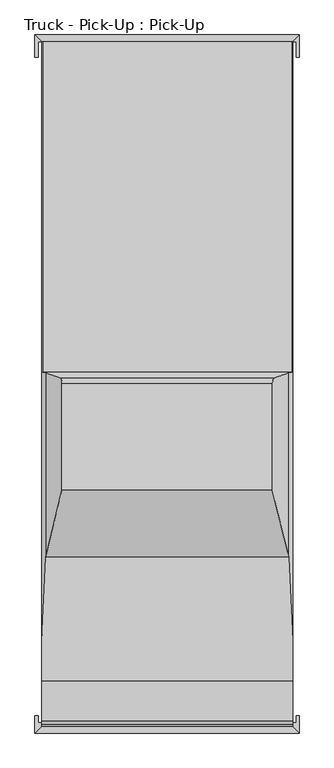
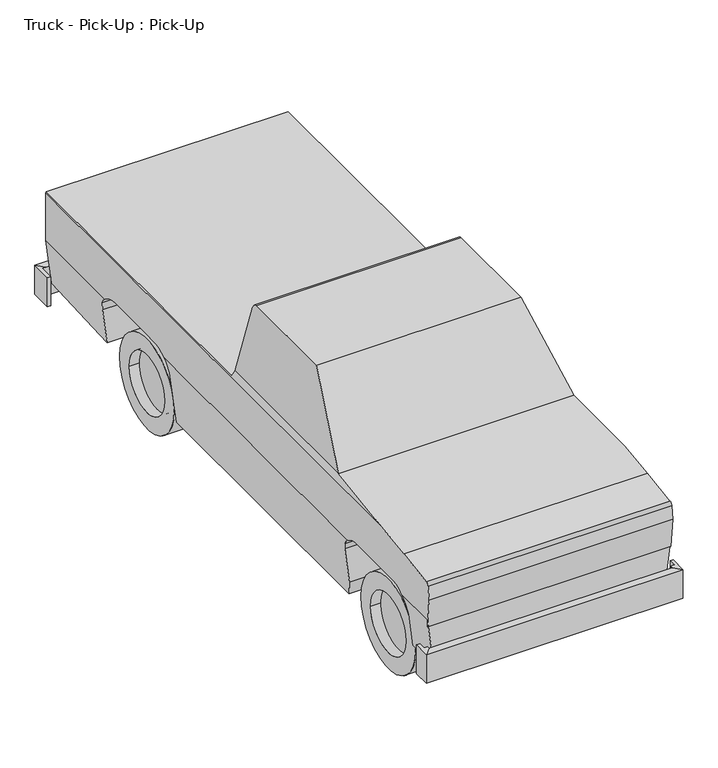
"""IFC4 building model written with IfcOpenShell, lengths in millimetres: geographic element geometry, Truck - Pick-Up : Pick-Up."""

from ifc_helpers import new_model, si_unit, point, frame, frame_2d, origin, place, context, project, spatial, polyline, circle_curve, ellipse_curve, trimmed, segment, composite_curve, outline, extrude, faceted_brep, source, transform, mapped, element, save
from ifc_brep_helpers import plane_surface, cylinder_surface, revolved_surface, advanced_brep


def truck_pick_up_pick_up_b584493c(model_context):
    return source(origin(), model_context, "Body", "SolidModel", [
        faceted_brep([(-932.9615385, 2903.0203063, 623.3577003), (-932.9615385, 2903.0203063, 394.7577003), (-907.5615385, 2903.0203063, 394.7577003), (-907.5615385, 2903.0203063, 623.3577003), (-932.9615385, 3066.5615385, 394.7577003), (-882.1615385, 3015.7615385, 394.7577003), (-907.5615385, 3015.7615385, 394.7577003), (-882.1615385, 3015.7615385, 623.3577003), (-932.9615385, 3066.5615385, 623.3577003), (-907.5615385, 3015.7615385, 623.3577003), (943.1251801, 3015.7615385, 394.7577003), (993.9251801, 3066.5615385, 394.7577003), (972.0384615, 3015.7615385, 394.7577003), (972.0384615, 3015.7615385, 623.3577003), (943.1251801, 3015.7615385, 623.3577003), (993.9251801, 3066.5615385, 623.3577003), (993.9251801, 2903.0203063, 394.7577003), (993.9251801, 2903.0203063, 623.3577003), (972.0384615, 2903.0203063, 623.3577003), (972.0384615, 2903.0203063, 394.7577003)], [[[0, 1, 2, 3]], [[1, 4, 5, 6, 2]], [[7, 8, 0, 3, 9]], [[1, 0, 8, 4]], [[10, 5, 4, 11]], [[10, 12, 13, 14, 7, 9, 6, 5]], [[8, 7, 14, 15]], [[4, 8, 15, 11]], [[16, 17, 18, 19]], [[10, 11, 16, 19, 12]], [[15, 14, 13, 18, 17]], [[11, 15, 17, 16]], [[6, 9, 3, 2]], [[13, 12, 19, 18]]]),
        faceted_brep([(-932.9615385, -1899.6194827, 394.7577003), (-932.9615385, -1899.6194827, 623.3577003), (-907.5615385, -1899.6194827, 623.3577003), (-907.5615385, -1899.6194827, 394.7577003), (-932.9615385, -2026.6194827, 394.7577003), (-932.9615385, -2026.6194827, 623.3577003), (-882.1615385, -1975.8194827, 623.3577003), (-882.1615385, -1951.924276, 623.3577003), (-907.5615385, -1951.924276, 623.3577003), (-882.1615385, -1975.8194827, 394.7577003), (-882.1615385, -1951.924276, 394.7577003), (-907.5615385, -1951.924276, 394.7577003), (993.9251801, -2026.6194827, 394.7577003), (993.9251801, -2026.6194827, 623.3577003), (943.1251801, -1975.8194827, 623.3577003), (943.1251801, -1975.8194827, 394.7577003), (993.9251801, -1899.6194827, 623.3577003), (993.9251801, -1899.6194827, 394.7577003), (972.0384615, -1899.6194827, 394.7577003), (972.0384615, -1899.6194827, 623.3577003), (972.0384615, -1951.924276, 623.3577003), (943.1251801, -1951.924276, 623.3577003), (943.1251801, -1951.924276, 394.7577003), (972.0384615, -1951.924276, 394.7577003)], [[[0, 1, 2, 3]], [[1, 0, 4, 5]], [[1, 5, 6, 7, 8, 2]], [[6, 9, 10, 7]], [[4, 0, 3, 11, 10, 9]], [[5, 4, 12, 13]], [[6, 5, 13, 14]], [[9, 6, 14, 15]], [[4, 9, 15, 12]], [[16, 17, 18, 19]], [[13, 12, 17, 16]], [[14, 13, 16, 19, 20, 21]], [[15, 14, 21, 22]], [[12, 15, 22, 23, 18, 17]], [[11, 8, 7, 10]], [[20, 23, 22, 21]], [[8, 11, 3, 2]], [[23, 20, 19, 18]]]),
        advanced_brep(
        [(-882.1615385, 2103.6156034, 888.7336798), (-882.1615385, 1697.2156034, 888.7336798), (-882.1615385, 1614.7015006, 885.1455636), (-882.1615385, 1473.5121228, 837.1131584), (-882.1615385, -912.9817492, 837.1131584), (-882.1615385, -1053.9517054, 878.8872426), (-882.1615385, -1474.8105853, 878.8872426), (-882.1615385, -1617.7834877, 837.1131584), (-882.1615385, -1951.924276, 837.1131584), (-882.1615385, -1951.924276, 779.2411665), (-882.1615385, -1975.8194827, 1006.5888718), (-882.1615385, -1963.4375574, 1107.4315608), (-882.1615385, -1939.9042038, 1130.9649145), (-882.1615385, -1644.5045632, 1173.526104), (-882.1615385, -1353.2454526, 1210.3079682), (-882.1615385, 3015.7615385, 1210.3079682), (-882.1615385, 3015.7615385, 837.1131584), (-882.1615385, 2243.9728923, 837.1131584), (946.6384615, -1644.5045632, 1173.526104), (946.6384615, -1939.9042038, 1130.9649145), (946.6384615, -1963.4375574, 1107.4315608), (946.6384615, -1975.8194827, 1006.5888718), (946.6384615, -1951.924276, 779.2411665), (946.6384615, -1951.924276, 837.1131584), (946.6384615, -1617.7834877, 837.1131584), (946.6384615, -1474.8105853, 878.8872426), (946.6384615, -1053.9517054, 878.8872426), (946.6384615, -912.9817492, 837.1131584), (946.6384615, 1473.5121228, 837.1131584), (946.6384615, 1614.7015006, 885.1455636), (946.6384615, 1697.2156034, 888.7336798), (946.6384615, 2103.6156034, 888.7336798), (946.6384615, 2243.9728923, 837.1131584), (946.6384615, 3015.7615385, 837.1131584), (946.6384615, 3015.7615385, 1210.3079682), (946.6384615, -1353.2454526, 1210.3079682), (-876.2843723, 3015.7615385, 1219.2), (940.7612953, 3015.7615385, 1219.2), (902.1686195, 3015.7615385, 480.544728), (-837.6916964, 3015.7615385, 480.544728), (897.0369558, 2300.369269, 439.3979826), (-832.5600327, 2300.369269, 439.3979826), (930.9047354, 2300.369269, 710.9568741), (-866.4278123, 2300.369269, 710.9568741), (939.4838124, 2288.2399438, 779.7456957), (-875.0068893, 2288.2399438, 779.7456957), (944.2646239, 1453.4521306, 818.079235), (-879.7877008, 1453.4521306, 818.079235), (935.7642918, 1419.378607, 749.921807), (-871.2873687, 1419.378607, 749.921807), (884.1769157, 1419.378607, 336.2835102), (-819.6999926, 1419.378607, 336.2835102), (884.1769157, -823.559725, 336.2835102), (-819.6999926, -823.559725, 336.2835102), (898.6478484, -854.6501227, 452.314454), (-834.1709253, -854.6501227, 452.314454), (933.4935408, -854.6501227, 731.714454), (-869.0166178, -854.6501227, 731.714454), (939.6132416, -867.7981302, 780.783486), (-875.1363185, -867.7981302, 780.783486), (930.9350571, -1682.962287, 711.2), (-866.458134, -1682.962287, 711.2), (899.0315641, -1682.962287, 455.3911665), (-834.554641, -1682.962287, 455.3911665), (899.0315641, -1951.924276, 455.3911665), (-834.554641, -1951.924276, 455.3911665), (939.4208895, -1951.924276, 779.2411665), (-874.9439664, -1951.924276, 779.2411665), (917.6799973, -743.8423581, 1254.1215299), (-853.2030742, -743.8423581, 1254.1215299), (800.2028589, -255.2503888, 1778.0), (-735.7259358, -255.2503888, 1778.0), (800.2028589, 522.1190782, 1778.0), (-735.7259358, 522.1190782, 1778.0), (-743.5250355, 560.0740962, 1743.2206338), (808.0019586, 560.0740962, 1743.2206338), (917.6799973, 602.8647232, 1254.1215299), (940.7612953, 605.9199612, 1219.2), (-876.2843723, 605.9199612, 1219.2), (-853.2030742, 602.8647232, 1254.1215299)],
        [
            (0, 1),
            (1, 2),
            (2, 3, circle_curve(frame((-882.1615385, 1606.9552598, 676.3888042), z_axis=(1.0, 0.0, 0.0), x_axis=(0.0, -1.0, 0.0)), 208.900428)),
            (3, 4),
            (4, 5, circle_curve(frame((-882.1615385, -1031.5575926, 695.7137663), z_axis=(1.0, 0.0, 0.0), x_axis=(0.0, -1.0, 0.0)), 184.5373098)),
            (5, 6),
            (6, 7, circle_curve(frame((-882.1615385, -1498.8876828, 695.7404401), z_axis=(1.0, 0.0, 0.0), x_axis=(0.0, -1.0, 0.0)), 184.7226513)),
            (7, 8),
            (8, 9),
            (9, 10),
            (10, 11),
            (11, 12, circle_curve(frame((-882.1615385, -1939.9042038, 1107.4315608), z_axis=(-1.0, 0.0, 0.0), x_axis=(0.0, -1.0, 0.0)), 23.5333537)),
            (12, 13),
            (13, 14, circle_curve(frame((-882.1615385, -446.5414344, -7141.0412638), z_axis=(-1.0, 0.0, 0.0), x_axis=(0.0, -1.0, 0.0)), 8400.4253566)),
            (14, 15),
            (15, 16),
            (16, 17),
            (17, 0, circle_curve(frame((-882.1615385, 2109.2327636, 687.3793785), z_axis=(1.0, 0.0, 0.0), x_axis=(0.0, -1.0, 0.0)), 201.4326367)),
            (18, 19),
            (19, 20, circle_curve(frame((946.6384615, -1939.9042038, 1107.4315608), z_axis=(1.0, 0.0, 0.0), x_axis=(0.0, -1.0, 0.0)), 23.5333537)),
            (20, 21),
            (21, 22),
            (22, 23),
            (23, 24),
            (24, 25, circle_curve(frame((946.6384615, -1498.8876828, 695.7404401), z_axis=(-1.0, 0.0, 0.0), x_axis=(0.0, -1.0, 0.0)), 184.7226513)),
            (25, 26),
            (26, 27, circle_curve(frame((946.6384615, -1031.5575926, 695.7137663), z_axis=(-1.0, 0.0, 0.0), x_axis=(0.0, -1.0, 0.0)), 184.5373098)),
            (27, 28),
            (28, 29, circle_curve(frame((946.6384615, 1606.9552598, 676.3888042), z_axis=(-1.0, 0.0, 0.0), x_axis=(0.0, -1.0, 0.0)), 208.900428)),
            (29, 30),
            (30, 31),
            (31, 32, circle_curve(frame((946.6384615, 2109.2327636, 687.3793785), z_axis=(-1.0, 0.0, 0.0), x_axis=(0.0, -1.0, 0.0)), 201.4326367)),
            (32, 33),
            (33, 34),
            (34, 35),
            (35, 18, circle_curve(frame((946.6384615, -446.5414344, -7141.0412638), z_axis=(1.0, 0.0, 0.0), x_axis=(0.0, -1.0, 0.0)), 8400.4253566)),
            (15, 36),
            (36, 37),
            (37, 34),
            (33, 38),
            (38, 39),
            (39, 16),
            (38, 40),
            (40, 41),
            (41, 39),
            (40, 42),
            (42, 43),
            (43, 41),
            (42, 44),
            (44, 45),
            (45, 43),
            (31, 0),
            (17, 45, ellipse_curve(frame((-863.4873178, 2109.2327636, 687.3793785), z_axis=(-0.9923125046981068, 0.0, -0.12375739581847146), x_axis=(0.12375739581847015, 0.0, -0.9923125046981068)), 202.9931455, 201.4326367)),
            (44, 32, ellipse_curve(frame((927.9642409, 2109.2327636, 687.3793785), z_axis=(0.992312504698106, 0.0, -0.12375739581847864), x_axis=(0.12375739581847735, 0.0, 0.9923125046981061)), 202.9931455, 201.4326367)),
            (30, 1),
            (29, 2),
            (28, 46, ellipse_curve(frame((926.5935388, 1606.9552598, 676.3888042), z_axis=(0.992312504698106, 0.0, -0.12375739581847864), x_axis=(0.12375739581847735, 0.0, 0.9923125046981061)), 210.5187902, 208.900428)),
            (46, 47),
            (47, 3, ellipse_curve(frame((-862.1166157, 1606.9552598, 676.3888042), z_axis=(-0.9923125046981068, 0.0, -0.12375739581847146), x_axis=(0.12375739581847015, 0.0, -0.9923125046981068)), 210.5187902, 208.900428)),
            (46, 48),
            (48, 49),
            (49, 47),
            (48, 50),
            (50, 51),
            (51, 49),
            (50, 52),
            (52, 53),
            (53, 51),
            (52, 54),
            (54, 55),
            (55, 53),
            (54, 56),
            (56, 57),
            (57, 55),
            (56, 58),
            (58, 59),
            (59, 57),
            (26, 5),
            (4, 59, ellipse_curve(frame((-864.5267506, -1031.5575926, 695.7137663), z_axis=(-0.9923125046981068, 0.0, -0.12375739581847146), x_axis=(0.12375739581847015, 0.0, -0.9923125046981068)), 185.9669297, 184.5373098)),
            (58, 27, ellipse_curve(frame((929.0036737, -1031.5575926, 695.7137663), z_axis=(0.992312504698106, 0.0, -0.12375739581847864), x_axis=(0.12375739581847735, 0.0, 0.9923125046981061)), 185.9669297, 184.5373098)),
            (25, 6),
            (24, 60, ellipse_curve(frame((929.0070003, -1498.8876828, 695.7404401), z_axis=(0.992312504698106, 0.0, -0.12375739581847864), x_axis=(0.12375739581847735, 0.0, 0.9923125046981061)), 186.153707, 184.7226513)),
            (60, 61),
            (61, 7, ellipse_curve(frame((-864.5300772, -1498.8876828, 695.7404401), z_axis=(-0.9923125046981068, 0.0, -0.12375739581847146), x_axis=(0.12375739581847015, 0.0, -0.9923125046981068)), 186.153707, 184.7226513)),
            (60, 62),
            (62, 63),
            (63, 61),
            (62, 64),
            (64, 65),
            (65, 63),
            (64, 66),
            (66, 67),
            (67, 65),
            (9, 67),
            (66, 22),
            (21, 10),
            (20, 11),
            (19, 12),
            (18, 13),
            (35, 68, ellipse_curve(frame((6466.4418903, -446.5414344, -7141.0412638), z_axis=(-0.8342458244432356, 0.0, -0.5513926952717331), x_axis=(-0.5513926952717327, 0.0, 0.8342458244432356)), 10069.4844499, 8400.4253566)),
            (68, 69),
            (69, 14, ellipse_curve(frame((-6401.9649673, -446.5414344, -7141.0412638), z_axis=(0.8342458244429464, 0.0, -0.5513926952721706), x_axis=(-0.5513926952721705, 0.0, -0.8342458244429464)), 10069.4844499, 8400.4253566)),
            (68, 70),
            (70, 71),
            (71, 69),
            (70, 72),
            (72, 73),
            (73, 71),
            (74, 75),
            (75, 76),
            (76, 77),
            (77, 78),
            (78, 79),
            (79, 74),
            (36, 78),
            (77, 37),
            (8, 67),
            (66, 23),
            (69, 79),
            (73, 74, ellipse_curve(frame((-744.2696711, 522.1190782, 1739.9), z_axis=(-0.9757672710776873, 0.0, 0.21881095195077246), x_axis=(-0.21881095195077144, 0.0, -0.9757672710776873)), 39.0461959, 38.1)),
            (68, 76),
            (75, 72, ellipse_curve(frame((808.7465942, 522.1190782, 1739.9), z_axis=(0.9757672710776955, 0.0, 0.21881095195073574), x_axis=(-0.21881095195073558, 0.0, 0.9757672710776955)), 39.0461959, 38.1)),
        ],
        [
            plane_surface(frame((-882.1615385, 3015.7615385, 480.544728), z_axis=(-1.0, 0.0, 0.0), x_axis=(0.0, 0.0, -1.0))),
            plane_surface(frame((946.6384615, 3015.7615385, 480.544728), z_axis=(1.0, 0.0, 0.0), x_axis=(0.0, 0.0, 1.0))),
            plane_surface(frame((-882.1615385, 3015.7615385, 1219.2), z_axis=(0.0, 1.0, 0.0), x_axis=(1.0, 0.0, 0.0))),
            plane_surface(frame((-882.1615385, 3015.7615385, 480.544728), z_axis=(0.0, 0.05742144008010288, -0.9983500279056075), x_axis=(1.0, 0.0, 0.0))),
            plane_surface(frame((-882.1615385, 2300.369269, 439.3979826), z_axis=(0.0, -1.0, 0.0), x_axis=(1.0, 0.0, 0.0))),
            plane_surface(frame((-882.1615385, 2300.369269, 710.9568741), z_axis=(0.0, -0.9848077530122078, -0.17364817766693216), x_axis=(1.0, 0.0, 0.0))),
            revolved_surface(polyline([(953.0861439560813, 1907.8001269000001, 687.3793785), (-888.6092208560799, 1907.8001269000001, 687.3793785)]), (946.6384615, 2109.2327636, 687.3793785), (1.0, 0.0, 0.0)),
            plane_surface(frame((-882.1615385, 2103.6156034, 888.7336798), z_axis=(0.0, 0.0, -1.0), x_axis=(1.0, 0.0, 0.0))),
            plane_surface(frame((-882.1615385, 1697.2156034, 888.7336798), z_axis=(0.0, 0.04344382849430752, -0.9990558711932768), x_axis=(1.0, 0.0, 0.0))),
            revolved_surface(polyline([(952.6467960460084, 1398.0548318, 676.3888042), (-888.169872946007, 1398.0548318, 676.3888042)]), (946.6384615, 1606.9552598, 676.3888042), (1.0, 0.0, 0.0)),
            plane_surface(frame((-882.1615385, 1453.4521306, 818.079235), z_axis=(0.0, 0.8944544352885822, -0.44715910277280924), x_axis=(1.0, 0.0, 0.0))),
            plane_surface(frame((-882.1615385, 1419.378607, 749.921807), z_axis=(0.0, 1.0, 0.0), x_axis=(1.0, 0.0, 0.0))),
            plane_surface(frame((-882.1615385, 1419.378607, 336.2835102), z_axis=(0.0, 0.0, -1.0), x_axis=(1.0, 0.0, 0.0))),
            plane_surface(frame((-882.1615385, -823.559725, 336.2835102), z_axis=(0.0, -0.965925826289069, -0.2588190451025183), x_axis=(1.0, 0.0, 0.0))),
            plane_surface(frame((-882.1615385, -854.6501227, 452.314454), z_axis=(0.0, -1.0, 0.0), x_axis=(1.0, 0.0, 0.0))),
            plane_surface(frame((-882.1615385, -854.6501227, 731.714454), z_axis=(0.0, -0.9659258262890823, -0.25881904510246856), x_axis=(1.0, 0.0, 0.0))),
            revolved_surface(polyline([(952.0184566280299, -1216.0949024, 695.7137663), (-887.5415335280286, -1216.0949024, 695.7137663)]), (946.6384615, -1031.5575926, 695.7137663), (1.0, 0.0, 0.0)),
            plane_surface(frame((-882.1615385, -1053.9517054, 878.8872426), z_axis=(0.0, 0.0, -1.0), x_axis=(1.0, 0.0, 0.0))),
            revolved_surface(polyline([(952.0448983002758, -1683.6103341, 695.7404401), (-887.5679752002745, -1683.6103341, 695.7404401)]), (946.6384615, -1498.8876828, 695.7404401), (1.0, 0.0, 0.0)),
            plane_surface(frame((-882.1615385, -1682.962287, 711.2), z_axis=(0.0, 1.0, 0.0), x_axis=(1.0, 0.0, 0.0))),
            plane_surface(frame((-882.1615385, -1682.962287, 455.3911665), z_axis=(0.0, 0.0, -1.0), x_axis=(1.0, 0.0, 0.0))),
            plane_surface(frame((-882.1615385, -1951.924276, 455.3911665), z_axis=(0.0, -1.0, 0.0), x_axis=(1.0, 0.0, 0.0))),
            plane_surface(frame((-882.1615385, -1951.924276, 779.2411665), z_axis=(0.0, -0.9945218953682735, -0.10452846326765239), x_axis=(1.0, 0.0, 0.0))),
            plane_surface(frame((-882.1615385, -1975.8194827, 1006.5888718), z_axis=(0.0, -0.9925461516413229, 0.1218693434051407), x_axis=(1.0, 0.0, 0.0))),
            cylinder_surface(frame((946.6384615, -1939.9042038, 1107.4315608), z_axis=(-1.0, 0.0, 0.0), x_axis=(0.0, -1.0, 0.0)), 23.5333537),
            plane_surface(frame((-882.1615385, -1939.9042038, 1130.9649145), z_axis=(0.0, -0.1426074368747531, 0.9897793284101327), x_axis=(1.0, 0.0, 0.0))),
            cylinder_surface(frame((946.6384615, -446.5414344, -7141.0412638), z_axis=(-1.0, 0.0, 0.0), x_axis=(0.0, -1.0, 0.0)), 8400.4253566),
            plane_surface(frame((-882.1615385, -743.8423581, 1254.1215299), z_axis=(0.0, -0.7313067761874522, 0.6820486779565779), x_axis=(1.0, 0.0, 0.0))),
            plane_surface(frame((-882.1615385, -255.2503888, 1778.0), z_axis=(0.0, 0.0, 1.0), x_axis=(1.0, 0.0, 0.0))),
            plane_surface(frame((-882.1615385, 560.0740962, 1743.2206338), z_axis=(0.0, 0.9961946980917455, 0.08715574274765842), x_axis=(1.0, 0.0, 0.0))),
            plane_surface(frame((-882.1615385, 605.9199612, 1219.2), z_axis=(0.0, 0.0, 1.0), x_axis=(1.0, 0.0, 0.0))),
            plane_surface(frame((-730.4934031, -1951.924276, 305.3311322), z_axis=(0.0, 1.0, 0.0), x_axis=(1.0, 0.0, 0.0))),
            plane_surface(frame((-815.8397312, -1951.924276, 305.3311322), z_axis=(-0.9923125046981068, 0.0, -0.12375739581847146), x_axis=(0.0, 1.0, 0.0))),
            plane_surface(frame((-884.2900076, -1951.924276, 1207.0876381), z_axis=(-0.8342458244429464, 0.0, 0.5513926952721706), x_axis=(0.0, 1.0, 0.0))),
            plane_surface(frame((-853.2030742, -1951.924276, 1254.1215299), z_axis=(-0.9757672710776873, 0.0, 0.21881095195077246), x_axis=(0.0, 1.0, 0.0))),
            plane_surface(frame((800.2028589, -1951.924276, 1778.0), z_axis=(0.9757672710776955, 0.0, 0.21881095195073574), x_axis=(0.0, 1.0, 0.0))),
            plane_surface(frame((917.6799973, -1951.924276, 1254.1215299), z_axis=(0.8342458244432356, 0.0, 0.5513926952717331), x_axis=(0.0, 1.0, 0.0))),
            plane_surface(frame((948.7669307, -1951.924276, 854.1796662), z_axis=(0.992312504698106, 0.0, -0.12375739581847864), x_axis=(0.0, 1.0, 0.0))),
            cylinder_surface(frame((946.6384615, 522.1190782, 1739.9), z_axis=(-1.0, 0.0, 0.0), x_axis=(0.0, -1.0, 0.0)), 38.1),
        ],
        [
            (0, [[1, 2, 3, 4, 5, 6, 7, 8, 9, 10, 11, 12, 13, 14, 15, 16, 17, 18]]),
            (1, [[19, 20, 21, 22, 23, 24, 25, 26, 27, 28, 29, 30, 31, 32, 33, 34, 35, 36]]),
            (2, [[-16, 37, 38, 39, -34, 40, 41, 42]]),
            (3, [[-41, 43, 44, 45]]),
            (4, [[-44, 46, 47, 48]]),
            (5, [[-47, 49, 50, 51]]),
            (6, [[52, -18, 53, -50, 54, -32]]),
            (7, [[-1, -52, -31, 55]]),
            (8, [[-2, -55, -30, 56]]),
            (9, [[-56, -29, 57, 58, 59, -3]]),
            (10, [[-58, 60, 61, 62]]),
            (11, [[-61, 63, 64, 65]]),
            (12, [[-64, 66, 67, 68]]),
            (13, [[-67, 69, 70, 71]]),
            (14, [[-70, 72, 73, 74]]),
            (15, [[-73, 75, 76, 77]]),
            (16, [[78, -5, 79, -76, 80, -27]]),
            (17, [[-6, -78, -26, 81]]),
            (18, [[-81, -25, 82, 83, 84, -7]]),
            (19, [[-83, 85, 86, 87]]),
            (20, [[-86, 88, 89, 90]]),
            (21, [[-89, 91, 92, 93]]),
            (22, [[-10, 94, -92, 95, -22, 96]]),
            (23, [[-11, -96, -21, 97]]),
            (24, [[-12, -97, -20, 98]]),
            (25, [[-13, -98, -19, 99]]),
            (26, [[-99, -36, 100, 101, 102, -14]]),
            (27, [[-101, 103, 104, 105]]),
            (28, [[-104, 106, 107, 108]]),
            (29, [[109, 110, 111, 112, 113, 114]]),
            (30, [[-38, 115, -112, 116]]),
            (31, [[117, -94, -9]]),
            (31, [[118, -23, -95]]),
            (32, [[-4, -59, -62, -65, -68, -71, -74, -77, -79]]),
            (32, [[-17, -42, -45, -48, -51, -53]]),
            (32, [[-117, -8, -84, -87, -90, -93]]),
            (33, [[119, -113, -115, -37, -15, -102]]),
            (34, [[-119, -105, -108, 120, -114]]),
            (35, [[121, -110, 122, -106, -103]]),
            (36, [[-121, -100, -35, -39, -116, -111]]),
            (37, [[-28, -80, -75, -72, -69, -66, -63, -60, -57]]),
            (37, [[-33, -54, -49, -46, -43, -40]]),
            (37, [[-118, -91, -88, -85, -82, -24]]),
            (38, [[-107, -122, -109, -120]]),
        ],
    ),
        extrude(outline(composite_curve([segment(trimmed(circle_curve(frame_2d((1872.7733891, 355.6)), 228.6), [point((1644.1733891, 355.6))], [point((2101.3733891, 355.6))], False, "CARTESIAN"), True, "CONTINUOUS"), segment(trimmed(circle_curve(frame_2d((1872.7733891, 355.6)), 228.6), [point((2101.3733891, 355.6))], [point((1644.1733891, 355.6))], False, "CARTESIAN"), True, "CONTINUOUS")], self_intersect=False)), frame((641.7586115, 0.0, 0.0), z_axis=(1.0, 0.0, 0.0), x_axis=(0.0, 1.0, 0.0)), (0.0, 0.0, 1.0), 127.8117146),
        extrude(outline(composite_curve([segment(trimmed(circle_curve(frame_2d((-1267.5375629, 355.6)), 228.6), [point((-1496.1375629, 355.6))], [point((-1038.9375629, 355.6))], False, "CARTESIAN"), True, "CONTINUOUS"), segment(trimmed(circle_curve(frame_2d((-1267.5375629, 355.6)), 228.6), [point((-1038.9375629, 355.6))], [point((-1496.1375629, 355.6))], False, "CARTESIAN"), True, "CONTINUOUS")], self_intersect=False)), frame((641.7586115, 0.0, 0.0), z_axis=(1.0, 0.0, 0.0), x_axis=(0.0, 1.0, 0.0)), (0.0, 0.0, 1.0), 127.8117146),
        extrude(outline(composite_curve([segment(trimmed(circle_curve(frame_2d((1872.7733891, 355.6)), 355.6), [point((1517.1733891, 355.6))], [point((2228.3733891, 355.6))], False, "CARTESIAN"), True, "CONTINUOUS"), segment(trimmed(circle_curve(frame_2d((1872.7733891, 355.6)), 355.6), [point((2228.3733891, 355.6))], [point((1517.1733891, 355.6))], False, "CARTESIAN"), True, "CONTINUOUS")], self_intersect=False), holes=[composite_curve([segment(trimmed(circle_curve(frame_2d((1872.7733891, 355.6)), 228.6), [point((2101.3733891, 355.6))], [point((1644.1733891, 355.6))], True, "CARTESIAN"), True, "CONTINUOUS"), segment(trimmed(circle_curve(frame_2d((1872.7733891, 355.6)), 228.6), [point((1644.1733891, 355.6))], [point((2101.3733891, 355.6))], True, "CARTESIAN"), True, "CONTINUOUS")], self_intersect=False)]), frame((641.8384615, 0.0, 0.0), z_axis=(1.0, 0.0, 0.0), x_axis=(0.0, 1.0, 0.0)), (0.0, 0.0, 1.0), 203.2),
        extrude(outline(composite_curve([segment(trimmed(circle_curve(frame_2d((-1267.5375629, 355.6)), 355.6), [point((-911.9375629, 355.6))], [point((-1623.1375629, 355.6))], False, "CARTESIAN"), True, "CONTINUOUS"), segment(trimmed(circle_curve(frame_2d((-1267.5375629, 355.6)), 355.6), [point((-1623.1375629, 355.6))], [point((-911.9375629, 355.6))], False, "CARTESIAN"), True, "CONTINUOUS")], self_intersect=False), holes=[composite_curve([segment(trimmed(circle_curve(frame_2d((-1267.5375629, 355.6)), 228.6), [point((-1038.9375629, 355.6))], [point((-1496.1375629, 355.6))], True, "CARTESIAN"), True, "CONTINUOUS"), segment(trimmed(circle_curve(frame_2d((-1267.5375629, 355.6)), 228.6), [point((-1496.1375629, 355.6))], [point((-1038.9375629, 355.6))], True, "CARTESIAN"), True, "CONTINUOUS")], self_intersect=False)]), frame((641.8384615, 0.0, 0.0), z_axis=(1.0, 0.0, 0.0), x_axis=(0.0, 1.0, 0.0)), (0.0, 0.0, 1.0), 203.2),
        extrude(outline(composite_curve([segment(trimmed(circle_curve(frame_2d((1872.7733891, 355.6)), 228.6), [point((1644.1733891, 355.6))], [point((2101.3733891, 355.6))], False, "CARTESIAN"), True, "CONTINUOUS"), segment(trimmed(circle_curve(frame_2d((1872.7733891, 355.6)), 228.6), [point((2101.3733891, 355.6))], [point((1644.1733891, 355.6))], False, "CARTESIAN"), True, "CONTINUOUS")], self_intersect=False)), frame((-705.0934031, 0.0, 0.0), z_axis=(1.0, 0.0, 0.0), x_axis=(0.0, 1.0, 0.0)), (0.0, 0.0, 1.0), 127.8117146),
        extrude(outline(composite_curve([segment(trimmed(circle_curve(frame_2d((-1267.5375629, 355.6)), 228.6), [point((-1496.1375629, 355.6))], [point((-1038.9375629, 355.6))], False, "CARTESIAN"), True, "CONTINUOUS"), segment(trimmed(circle_curve(frame_2d((-1267.5375629, 355.6)), 228.6), [point((-1038.9375629, 355.6))], [point((-1496.1375629, 355.6))], False, "CARTESIAN"), True, "CONTINUOUS")], self_intersect=False)), frame((-705.0934031, 0.0, 0.0), z_axis=(1.0, 0.0, 0.0), x_axis=(0.0, 1.0, 0.0)), (0.0, 0.0, 1.0), 127.8117146),
        extrude(outline(composite_curve([segment(polyline([(2300.369269, 456.9336798), (1419.378607, 456.9336798), (1419.378607, 749.921807), (1453.4521306, 818.079235)]), True, "CONTINUOUS"), segment(trimmed(circle_curve(frame_2d((1606.9552598, 676.3888042)), 208.900428), [point((1453.4521306, 818.079235))], [point((1614.7015006, 885.1455636))], False, "CARTESIAN"), True, "CONTINUOUS"), segment(polyline([(1614.7015006, 885.1455636), (1697.2156034, 888.7336798), (2103.6156034, 888.7336798)]), True, "CONTINUOUS"), segment(trimmed(circle_curve(frame_2d((2109.2327636, 687.3793785)), 201.4326367), [point((2103.6156034, 888.7336798))], [point((2288.2399438, 779.7456957))], False, "CARTESIAN"), True, "CONTINUOUS"), segment(polyline([(2288.2399438, 779.7456957), (2300.369269, 710.9568741), (2300.369269, 456.9336798)]), True, "CONTINUOUS")], self_intersect=False)), frame((520.2761241, 0.0, 0.0), z_axis=(1.0, 0.0, 0.0), x_axis=(0.0, 1.0, 0.0)), (0.0, 0.0, 1.0), 35.321875),
        extrude(outline(composite_curve([segment(polyline([(2300.369269, 456.9336798), (1419.378607, 456.9336798), (1419.378607, 749.921807), (1453.4521306, 818.079235)]), True, "CONTINUOUS"), segment(trimmed(circle_curve(frame_2d((1606.9552598, 676.3888042)), 208.900428), [point((1453.4521306, 818.079235))], [point((1614.7015006, 885.1455636))], False, "CARTESIAN"), True, "CONTINUOUS"), segment(polyline([(1614.7015006, 885.1455636), (1697.2156034, 888.7336798), (2103.6156034, 888.7336798)]), True, "CONTINUOUS"), segment(trimmed(circle_curve(frame_2d((2109.2327636, 687.3793785)), 201.4326367), [point((2103.6156034, 888.7336798))], [point((2288.2399438, 779.7456957))], False, "CARTESIAN"), True, "CONTINUOUS"), segment(polyline([(2288.2399438, 779.7456957), (2300.369269, 710.9568741), (2300.369269, 456.9336798)]), True, "CONTINUOUS")], self_intersect=False)), frame((-484.8485994, 0.0, 0.0), z_axis=(1.0, 0.0, 0.0), x_axis=(0.0, 1.0, 0.0)), (0.0, 0.0, 1.0), 47.0684735),
        extrude(outline(polyline([(520.2761241, 2300.369269), (520.2761241, 1419.378607), (-437.7696481, 1419.378607), (-437.7696481, 2300.369269), (520.2761241, 2300.369269)])), frame((0.0, 0.0, 595.9078125), z_axis=(0.0, 0.0, 1.0), x_axis=(1.0, 0.0, 0.0)), (0.0, 0.0, 1.0), 27.7189478),
        extrude(outline(composite_curve([segment(trimmed(circle_curve(frame_2d((1872.7733891, 355.6)), 355.6), [point((1517.1733891, 355.6))], [point((2228.3733891, 355.6))], False, "CARTESIAN"), True, "CONTINUOUS"), segment(trimmed(circle_curve(frame_2d((1872.7733891, 355.6)), 355.6), [point((2228.3733891, 355.6))], [point((1517.1733891, 355.6))], False, "CARTESIAN"), True, "CONTINUOUS")], self_intersect=False), holes=[composite_curve([segment(trimmed(circle_curve(frame_2d((1872.7733891, 355.6)), 228.6), [point((2101.3733891, 355.6))], [point((1644.1733891, 355.6))], True, "CARTESIAN"), True, "CONTINUOUS"), segment(trimmed(circle_curve(frame_2d((1872.7733891, 355.6)), 228.6), [point((1644.1733891, 355.6))], [point((2101.3733891, 355.6))], True, "CARTESIAN"), True, "CONTINUOUS")], self_intersect=False)]), frame((-780.5615385, 0.0, 0.0), z_axis=(1.0, 0.0, 0.0), x_axis=(0.0, 1.0, 0.0)), (0.0, 0.0, 1.0), 203.2),
        extrude(outline(composite_curve([segment(trimmed(circle_curve(frame_2d((-1267.5375629, 355.6)), 355.6), [point((-911.9375629, 355.6))], [point((-1623.1375629, 355.6))], False, "CARTESIAN"), True, "CONTINUOUS"), segment(trimmed(circle_curve(frame_2d((-1267.5375629, 355.6)), 355.6), [point((-1623.1375629, 355.6))], [point((-911.9375629, 355.6))], False, "CARTESIAN"), True, "CONTINUOUS")], self_intersect=False), holes=[composite_curve([segment(trimmed(circle_curve(frame_2d((-1267.5375629, 355.6)), 228.6), [point((-1038.9375629, 355.6))], [point((-1496.1375629, 355.6))], True, "CARTESIAN"), True, "CONTINUOUS"), segment(trimmed(circle_curve(frame_2d((-1267.5375629, 355.6)), 228.6), [point((-1496.1375629, 355.6))], [point((-1038.9375629, 355.6))], True, "CARTESIAN"), True, "CONTINUOUS")], self_intersect=False)]), frame((-780.5615385, 0.0, 0.0), z_axis=(1.0, 0.0, 0.0), x_axis=(0.0, 1.0, 0.0)), (0.0, 0.0, 1.0), 203.2),
    ])


if __name__ == "__main__":
    model = new_model("IFC4")
    model_context = context("Model", 3, world=origin())
    ifc_project = project(units=[si_unit("LENGTHUNIT", "METRE", prefix="MILLI")], contexts=[model_context])
    site = spatial("IfcSite", under=ifc_project)
    building = spatial("IfcBuilding", under=site)
    placement = place(None, origin())
    truck_pick_up_pick_up_shape = truck_pick_up_pick_up_b584493c(model_context)
    element("IfcGeographicElement", 1, ObjectType="Truck - Pick-Up : Pick-Up", at=placement, inside=building, context=model_context, shape_type="MappedRepresentation", body=[
        mapped(truck_pick_up_pick_up_shape, transform((0.0, 0.0, 0.0), x_axis=(1.0, 0.0, 0.0), y_axis=(0.0, 1.0, 0.0), z_axis=(0.0, 0.0, 1.0))),
    ])
    save(model, "model.ifc")
